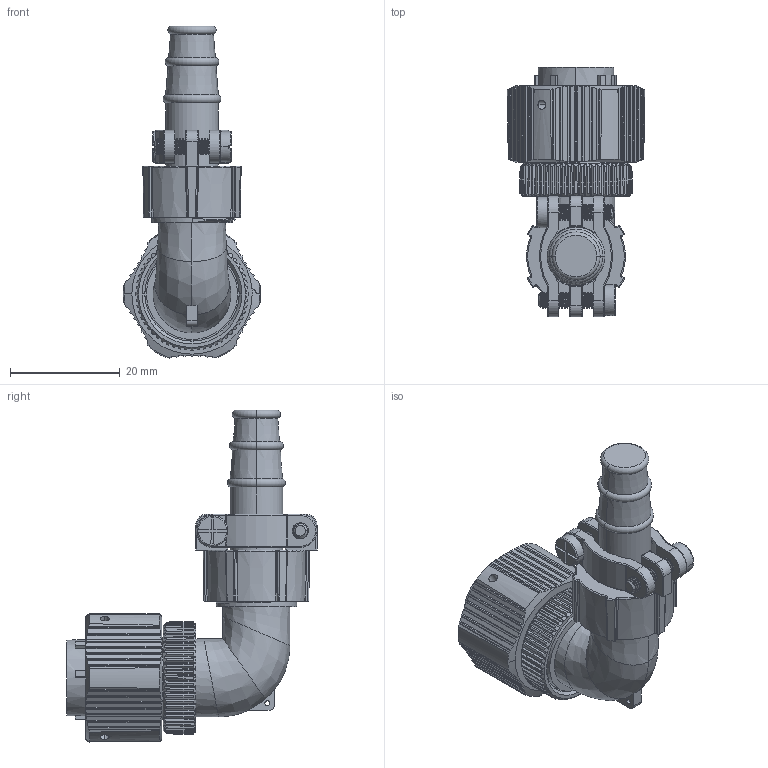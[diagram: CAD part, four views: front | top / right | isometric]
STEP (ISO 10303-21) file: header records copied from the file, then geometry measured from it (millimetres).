
FILE_DESCRIPTION((''),'2;1');
FILE_NAME('PRT0001','2019-04-01T',('Administrator'),(''),'CREO PARAMETRIC BY PTC INC, 2016130','CREO PARAMETRIC BY PTC INC, 2016130','');
FILE_SCHEMA(('CONFIG_CONTROL_DESIGN'));
Products named in the file (1): PRT0001
Bounding box: 24.98 x 45.55 x 60.46 mm (x, y, z)
Volume: 14405.8 mm3; surface area: 11308.9 mm2
Topology: 1 solids, 3 shells, 1303 faces, 3658 edges, 2393 vertices
Faces by surface type: plane 508, cylinder 310, bspline 173, cone 133, extrusion 125, torus 42, sphere 12
Entity records: 58429 total; most frequent: CARTESIAN_POINT 27738, ORIENTED_EDGE 7292, DIRECTION 5011, EDGE_CURVE 3646, VERTEX_POINT 2393, AXIS2_PLACEMENT_3D 1819, B_SPLINE_CURVE_WITH_KNOTS 1709, VECTOR 1373
